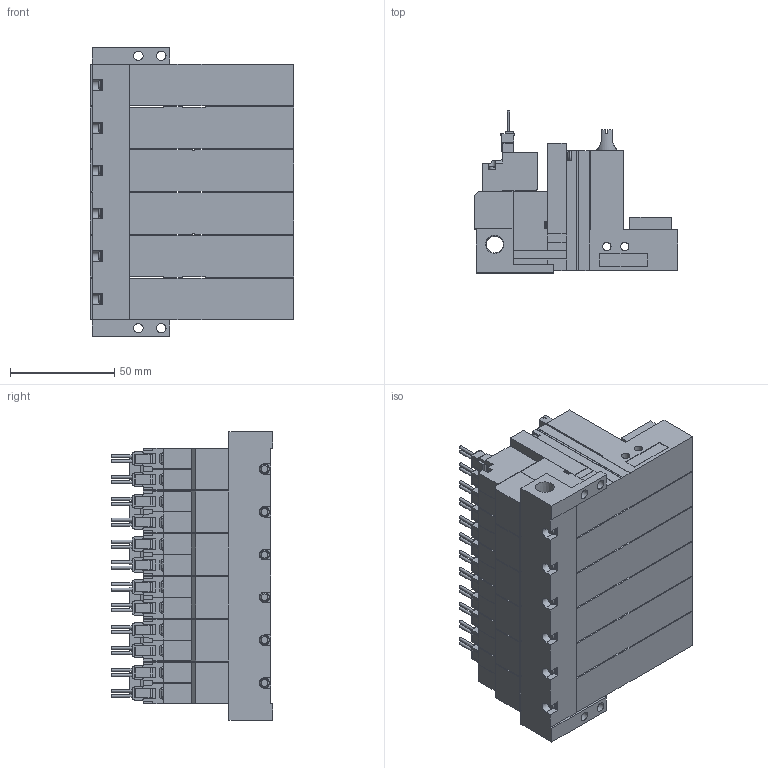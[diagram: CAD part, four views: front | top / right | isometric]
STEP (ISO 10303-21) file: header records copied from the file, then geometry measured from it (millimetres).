
FILE_DESCRIPTION(('STEP AP203'),'1');
FILE_NAME('ZLC5BLR606.stp','2025-02-19T02:05:49',(' '),(' '),'Spatial InterOp 3D',' ',' ');
FILE_SCHEMA(('CONFIG_CONTROL_DESIGN'));
Length unit declared in the file: millimetre
Products named in the file (5): BMC22M※※※※ZLC5BLR606; Solenoid valve B; Pressure sensor ZLC; Unit LC; Base MR60R
Assembly tree (19 placements, depth 2):
  BMC22M※※※※ZLC5BLR606
    Solenoid valve B  x6
    Pressure sensor ZLC  x6
    Unit LC  x6
    Base MR60R
Bounding box: 97.6 x 77.45 x 138.5 mm (x, y, z)
Volume: 534112.4 mm3; surface area: 141562.5 mm2
Topology: 19 solids, 19 shells, 2169 faces, 5897 edges, 3874 vertices
Faces by surface type: plane 1874, cylinder 221, cone 44, torus 30
Full cylindrical faces by diameter (mm): 1.4 x24, 2.5 x6, 3 x24, 3.5 x24, 3.6 x6, 4 x12, 4.134 x6, 4.5 x4, 5.2 x6, 6 x6, 6.6 x6, 8.279 x1
Entity records: 14342 total; most frequent: CARTESIAN_POINT 2791, DIRECTION 2270, ORIENTED_EDGE 2228, EDGE_CURVE 1114, LINE 902, VECTOR 902, VERTEX_POINT 779, AXIS2_PLACEMENT_3D 684
